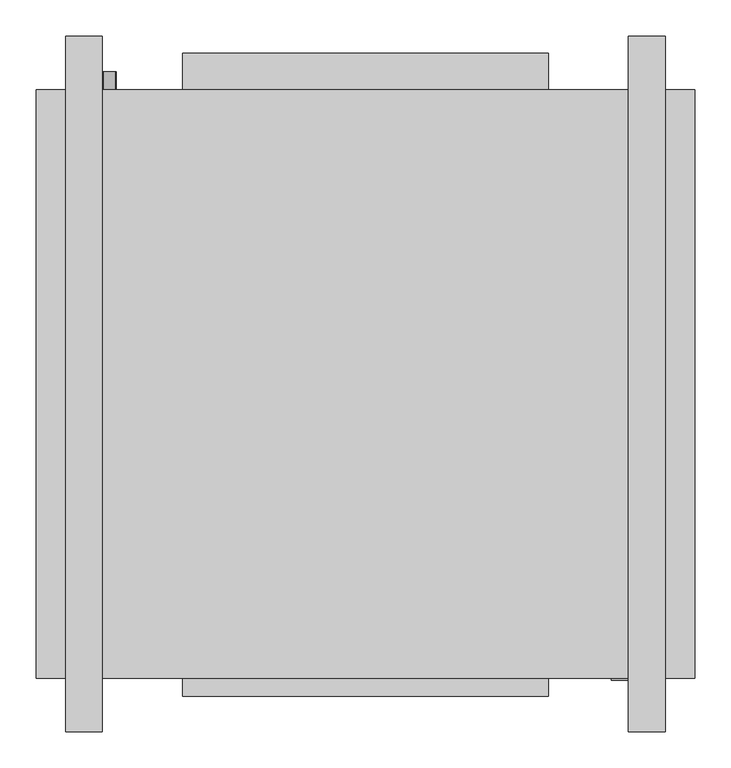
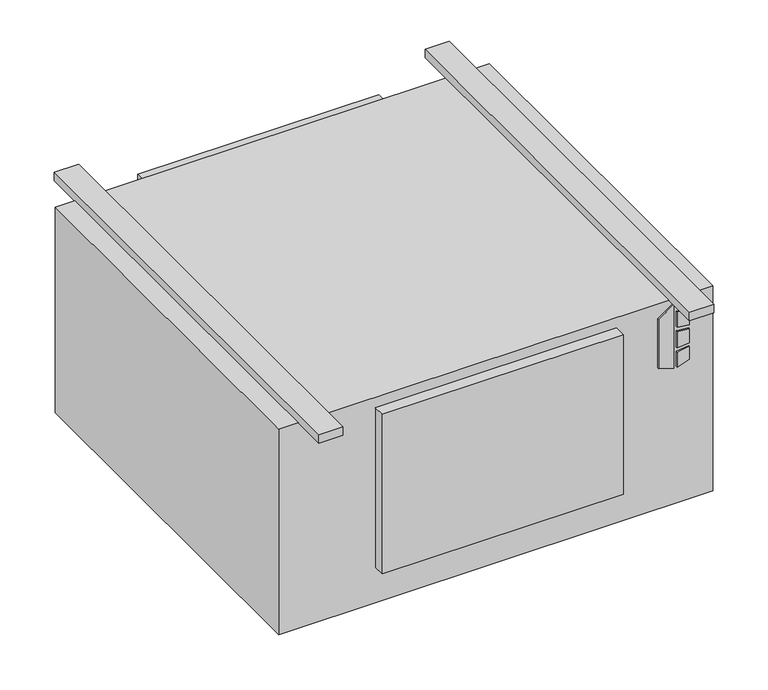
"""IFC4 building model written with IfcOpenShell, lengths in millimetres: proxy geometry, Concealed_High_Capacity_Horizontal_Cabinet_Fan_Coil_Unit_-_HXY_-_IEC_-_2-Pipe_Cool-EHeat_LH_2022 : Size 08 - 277v/60Hz/1Ph - 6 Row 6.0kW."""

import ifcopenshell
import ifcopenshell.guid

model = None  # the IFC model being written
_history = None  # IfcOwnerHistory: only IFC2X3 demands one
_inside = {}  # id of a spatial element -> (the spatial element, [elements in it])
_under = {}  # id of a project, library or spatial element -> (it, [spatial elements below it])
_declared = {}  # id of a project -> (the project, [libraries it declares])
_typed = {}  # id of a type object -> (the type object, [elements of that type])
_made_of = {}  # id of a material, layer set ... -> (it, [elements and type objects made of it])


def new_model(schema):
    """Start an empty IFC model of exactly this schema.

    Asked for "IFC4X3", IfcOpenShell would pick the latest addendum, in which some entities
    have other attributes; the version numbers below select the first issue.
    IFC2X3 requires an IfcOwnerHistory on every rooted entity: one is made here for all.
    """
    global model, _history
    if schema == "IFC4X3":
        model = ifcopenshell.file(schema_version=(4, 3, 0, 0))
    else:
        model = ifcopenshell.file(schema=schema)
    _inside.clear()
    _under.clear()
    _declared.clear()
    _typed.clear()
    _made_of.clear()
    _history = None
    if model.schema == "IFC2X3":
        org = make("IfcOrganization", Name="unknown")
        user = make(
            "IfcPersonAndOrganization",
            ThePerson=make("IfcPerson", FamilyName="unknown"),
            TheOrganization=org,
        )
        app = make(
            "IfcApplication",
            ApplicationDeveloper=org,
            Version="unknown",
            ApplicationFullName="unknown",
            ApplicationIdentifier="unknown",
        )
        _history = make(
            "IfcOwnerHistory",
            OwningUser=user,
            OwningApplication=app,
            ChangeAction="ADDED",
            CreationDate=0,
        )
    return model


def make(cls, **values):
    """One entity of the class cls with the attributes given. An attribute that is None is left unset."""
    return model.create_entity(
        cls, **{name: value for name, value in values.items() if value is not None}
    )


def rooted(cls, **values):
    """An entity with a GlobalId (a new one), such as an element, a storey or a relation."""
    return make(cls, GlobalId=ifcopenshell.guid.new(), OwnerHistory=_history, **values)


def si_unit(unit_type, name, prefix=None):
    """IfcSIUnit, for example si_unit("LENGTHUNIT", "METRE", prefix="MILLI")."""
    return make("IfcSIUnit", UnitType=unit_type, Prefix=prefix, Name=name)


def assignment(units):
    """IfcUnitAssignment: the units of a project."""
    return None if units is None else make("IfcUnitAssignment", Units=units)


def point(xyz):
    """IfcCartesianPoint."""
    return None if xyz is None else make("IfcCartesianPoint", Coordinates=xyz)


def direction(xyz):
    """IfcDirection."""
    return None if xyz is None else make("IfcDirection", DirectionRatios=xyz)


def frame(location, z_axis=None, x_axis=None):
    """IfcAxis2Placement3D, a coordinate frame: its origin and axes. An axis left out is left unset."""
    return make(
        "IfcAxis2Placement3D",
        Location=point(location),
        Axis=direction(z_axis),
        RefDirection=direction(x_axis),
    )


def frame_2d(location, x_axis=None):
    """IfcAxis2Placement2D, a coordinate frame in the plane: its origin and x axis."""
    return make(
        "IfcAxis2Placement2D", Location=point(location), RefDirection=direction(x_axis)
    )


def origin():
    """The frame at (0, 0, 0) with its axes left unset."""
    return frame((0.0, 0.0, 0.0))


def origin_with_axes():
    """The frame at (0, 0, 0) with the z axis (0, 0, 1) and the x axis (1, 0, 0) written out."""
    return frame((0.0, 0.0, 0.0), z_axis=(0.0, 0.0, 1.0), x_axis=(1.0, 0.0, 0.0))


def place(relative_to, where):
    """IfcLocalPlacement: puts the frame where relative to a parent placement (None: the world)."""
    return make(
        "IfcLocalPlacement", PlacementRelTo=relative_to, RelativePlacement=where
    )


def context(
    kind, dimensions, precision=None, world=None, true_north=None, identifier=None
):
    """IfcGeometricRepresentationContext, for example the 3D "Model" context."""
    return make(
        "IfcGeometricRepresentationContext",
        ContextIdentifier=identifier,
        ContextType=kind,
        CoordinateSpaceDimension=dimensions,
        Precision=precision,
        WorldCoordinateSystem=world,
        TrueNorth=true_north,
    )


def project(units=None, contexts=None):
    """IfcProject with its units and contexts."""
    return rooted(
        "IfcProject",
        Name="project",
        RepresentationContexts=contexts,
        UnitsInContext=assignment(units),
    )


def spatial(cls, under=None, at=None, **own):
    """A site, building, storey or space (cls), placed at a placement, below another one or the project."""
    s = rooted(cls, ObjectPlacement=at, **own)
    if under is not None:
        _under.setdefault(under.id(), (under, []))[1].append(s)
    return s


def polyline(points):
    """IfcPolyline through the points."""
    return make("IfcPolyline", Points=[point(p) for p in points])


def circle_curve(where, radius):
    """IfcCircle in the frame where."""
    return make("IfcCircle", Position=where, Radius=radius)


def trimmed(basis, trim1, trim2, sense, master):
    """IfcTrimmedCurve: the piece of a basis curve between two trims."""
    return make(
        "IfcTrimmedCurve",
        BasisCurve=basis,
        Trim1=trim1,
        Trim2=trim2,
        SenseAgreement=sense,
        MasterRepresentation=master,
    )


def segment(curve, same_sense, transition):
    """IfcCompositeCurveSegment."""
    return make(
        "IfcCompositeCurveSegment",
        Transition=transition,
        SameSense=same_sense,
        ParentCurve=curve,
    )


def composite_curve(segments, self_intersect=None):
    """IfcCompositeCurve: segments joined end to end."""
    return make("IfcCompositeCurve", Segments=segments, SelfIntersect=self_intersect)


def outline(outer, holes=None, kind="AREA"):
    """IfcArbitraryClosedProfileDef: a profile drawn as a closed curve; with holes, ...WithVoids."""
    if holes is None:
        return make("IfcArbitraryClosedProfileDef", ProfileType=kind, OuterCurve=outer)
    return make(
        "IfcArbitraryProfileDefWithVoids",
        ProfileType=kind,
        OuterCurve=outer,
        InnerCurves=holes,
    )


def extrude(swept, where, along, depth):
    """IfcExtrudedAreaSolid: the profile swept, set in the frame where, extruded along a direction by depth."""
    return make(
        "IfcExtrudedAreaSolid",
        SweptArea=swept,
        Position=where,
        ExtrudedDirection=direction(along),
        Depth=depth,
    )


def shape(context_of_items, identifier, shape_type, items):
    """IfcShapeRepresentation: the items that make up one representation, for example the "Body"."""
    return make(
        "IfcShapeRepresentation",
        ContextOfItems=context_of_items,
        RepresentationIdentifier=identifier,
        RepresentationType=shape_type,
        Items=items,
    )


def source(mapping_origin, context_of_items, identifier, shape_type, items):
    """IfcRepresentationMap: a shape defined once, which mapped items show again and again."""
    return make(
        "IfcRepresentationMap",
        MappingOrigin=mapping_origin,
        MappedRepresentation=shape(context_of_items, identifier, shape_type, items),
    )


def transform(
    local_origin,
    x_axis=None,
    y_axis=None,
    z_axis=None,
    scale=None,
    scale2=None,
    scale3=None,
    uniform=True,
):
    """IfcCartesianTransformationOperator3D, or its non-uniform kind. x_axis, y_axis, z_axis: its Axis1, 2, 3."""
    if uniform:
        return make(
            "IfcCartesianTransformationOperator3D",
            Axis1=direction(x_axis),
            Axis2=direction(y_axis),
            LocalOrigin=point(local_origin),
            Scale=scale,
            Axis3=direction(z_axis),
        )
    return make(
        "IfcCartesianTransformationOperator3DnonUniform",
        Axis1=direction(x_axis),
        Axis2=direction(y_axis),
        LocalOrigin=point(local_origin),
        Scale=scale,
        Axis3=direction(z_axis),
        Scale2=scale2,
        Scale3=scale3,
    )


def mapped(mapping_source, mapping_target):
    """IfcMappedItem: shows the shape of a source again, moved by a transform."""
    return make(
        "IfcMappedItem", MappingSource=mapping_source, MappingTarget=mapping_target
    )


def made_of(thing, what):
    """Note that an element or type object is made of a material, layer set ...; save() writes the relation."""
    if what is not None:
        _made_of.setdefault(what.id(), (what, []))[1].append(thing)
    return thing


def element(
    cls,
    number,
    at=None,
    inside=None,
    cuts=None,
    type_object=None,
    material=None,
    context=None,
    identifier="Body",
    shape_type=None,
    held_by="IfcProductDefinitionShape",
    body=None,
    shapes=None,
    **own,
):
    """One element of the class cls, such as IfcWall. Its Tag is "e" and its number.

    at: its placement. inside: the storey or other place that contains it. cuts: it is an
    opening in that element (IfcRelVoidsElement). A single representation is given by context,
    identifier, shape_type and body (its items); several are given by shapes. held_by: the class
    of the entity that holds the representations. save() writes the other relations.
    """
    e = rooted(cls, Tag="e%d" % number, ObjectPlacement=at, **own)
    if body is not None:
        shapes = [shape(context, identifier, shape_type, body)]
    if shapes is not None:
        e.Representation = make(held_by, Representations=shapes)
    if inside is not None:
        _inside.setdefault(inside.id(), (inside, []))[1].append(e)
    if cuts is not None:
        rooted(
            "IfcRelVoidsElement", RelatingBuildingElement=cuts, RelatedOpeningElement=e
        )
    if type_object is not None:
        _typed.setdefault(type_object.id(), (type_object, []))[1].append(e)
    return made_of(e, material)


def aggregate(whole, parts):
    """IfcRelAggregates: a whole, such as a stair, and the parts it consists of."""
    return rooted("IfcRelAggregates", RelatingObject=whole, RelatedObjects=parts)


def save(model, path):
    """Write the relations noted so far, then the file.

    IfcRelAggregates (storeys below a building ...), IfcRelContainedInSpatialStructure (elements
    in a storey), IfcRelDefinesByType, IfcRelAssociatesMaterial and IfcRelDeclares: one each for
    every whole, place, type object, material and project.
    """
    for whole, parts in _under.values():
        aggregate(whole, parts)
    for where, things in _inside.values():
        rooted(
            "IfcRelContainedInSpatialStructure",
            RelatedElements=things,
            RelatingStructure=where,
        )
    for kind, things in _typed.values():
        rooted("IfcRelDefinesByType", RelatedObjects=things, RelatingType=kind)
    for what, things in _made_of.values():
        rooted("IfcRelAssociatesMaterial", RelatedObjects=things, RelatingMaterial=what)
    for by, libraries in _declared.values():
        rooted("IfcRelDeclares", RelatingContext=by, RelatedDefinitions=libraries)
    model.write(path)


def mechanical_equipment_621a45fb(model_context):
    return source(origin(), model_context, "Body", "SweptSolid", [
        extrude(outline(polyline([(-142.4519297, 493.7868862), (-152.4, 525.9602728), (-10.2290756, 525.9602728), (-33.2510817, 493.7868862), (-142.4519297, 493.7868862)])), frame((0.0, -649.2875, 0.0), z_axis=(0.0, 1.0, 0.0), x_axis=(0.0, 0.0, 1.0)), (0.0, 0.0, 1.0), 3.175),
        extrude(outline(polyline([(-63.4526443, 532.7186058), (-66.6550368, 558.8), (-37.4261958, 558.8), (-29.3617807, 532.7186058), (-63.4526443, 532.7186058)])), frame((0.0, -649.2875, 0.0), z_axis=(0.0, 1.0, 0.0), x_axis=(0.0, 0.0, 1.0)), (0.0, 0.0, 1.0), 3.175),
        extrude(outline(polyline([(-115.3161712, 558.8), (-118.9816721, 532.7186058), (-152.4, 532.7186058), (-143.7657628, 558.8), (-115.3161712, 558.8)])), frame((0.0, -649.2875, 0.0), z_axis=(0.0, 1.0, 0.0), x_axis=(0.0, 0.0, 1.0)), (0.0, 0.0, 1.0), 3.175),
        extrude(outline(polyline([(-76.0010097, 558.8), (-73.7191834, 532.7186058), (-109.6567319, 532.7186058), (-106.9154669, 558.8), (-76.0010097, 558.8)])), frame((0.0, -649.2875, 0.0), z_axis=(0.0, 1.0, 0.0), x_axis=(0.0, 0.0, 1.0)), (0.0, 0.0, 1.0), 3.175),
        extrude(outline(composite_curve([segment(trimmed(circle_curve(frame_2d((-406.4, -203.2)), 9.525), [point((-406.4, -212.725))], [point((-406.4, -193.675))], False, "CARTESIAN"), True, "CONTINUOUS"), segment(trimmed(circle_curve(frame_2d((-406.4, -203.2)), 9.525), [point((-406.4, -193.675))], [point((-406.4, -212.725))], False, "CARTESIAN"), True, "CONTINUOUS")], self_intersect=False)), frame((0.0, 169.8625, 0.0), z_axis=(0.0, 1.0, 0.0), x_axis=(0.0, 0.0, 1.0)), (0.0, 0.0, 1.0), 25.4),
        extrude(outline(composite_curve([segment(trimmed(circle_curve(frame_2d((-330.2, -203.2)), 7.9375), [point((-330.2, -211.1375))], [point((-330.2, -195.2625))], False, "CARTESIAN"), True, "CONTINUOUS"), segment(trimmed(circle_curve(frame_2d((-330.2, -203.2)), 7.9375), [point((-330.2, -195.2625))], [point((-330.2, -211.1375))], False, "CARTESIAN"), True, "CONTINUOUS")], self_intersect=False)), frame((0.0, 169.8625, 0.0), z_axis=(0.0, 1.0, 0.0), x_axis=(0.0, 0.0, 1.0)), (0.0, 0.0, 1.0), 25.4),
        extrude(outline(composite_curve([segment(trimmed(circle_curve(frame_2d((-254.0, -203.2)), 7.9375), [point((-254.0, -211.1375))], [point((-254.0, -195.2625))], False, "CARTESIAN"), True, "CONTINUOUS"), segment(trimmed(circle_curve(frame_2d((-254.0, -203.2)), 7.9375), [point((-254.0, -195.2625))], [point((-254.0, -211.1375))], False, "CARTESIAN"), True, "CONTINUOUS")], self_intersect=False)), frame((0.0, 169.8625, 0.0), z_axis=(0.0, 1.0, 0.0), x_axis=(0.0, 0.0, 1.0)), (0.0, 0.0, 1.0), 25.4),
        extrude(outline(polyline([(609.6, 169.8625), (609.6, -646.1125), (-304.8, -646.1125), (-304.8, 169.8625), (609.6, 169.8625)])), frame((0.0, 0.0, -457.2), z_axis=(0.0, 0.0, 1.0), x_axis=(1.0, 0.0, 0.0)), (0.0, 0.0, 1.0), 457.2),
        extrude(outline(polyline([(-101.6, 220.6625), (406.4, 220.6625), (406.4, 169.8625), (-101.6, 169.8625), (-101.6, 220.6625)])), frame((0.0, 0.0, -377.825), z_axis=(0.0, 0.0, 1.0), x_axis=(1.0, 0.0, 0.0)), (0.0, 0.0, 1.0), 349.25),
        extrude(outline(polyline([(-212.725, 244.475), (-212.725, -720.725), (-263.525, -720.725), (-263.525, 244.475), (-212.725, 244.475)])), origin_with_axes(), (0.0, 0.0, 1.0), 19.05),
        extrude(outline(polyline([(568.325, 244.475), (568.325, -720.725), (517.525, -720.725), (517.525, 244.475), (568.325, 244.475)])), origin_with_axes(), (0.0, 0.0, 1.0), 19.05),
        extrude(outline(polyline([(406.4, -671.5125), (-101.6, -671.5125), (-101.6, -646.1125), (406.4, -646.1125), (406.4, -671.5125)])), frame((0.0, 0.0, -377.825), z_axis=(0.0, 0.0, 1.0), x_axis=(1.0, 0.0, 0.0)), (0.0, 0.0, 1.0), 355.6),
    ])


if __name__ == "__main__":
    model = new_model("IFC4")
    model_context = context("Model", 3, world=origin())
    ifc_project = project(units=[si_unit("LENGTHUNIT", "METRE", prefix="MILLI")], contexts=[model_context])
    site = spatial("IfcSite", under=ifc_project)
    building = spatial("IfcBuilding", under=site)
    placement = place(None, origin())
    mechanical_equipment_shape = mechanical_equipment_621a45fb(model_context)
    element("IfcBuildingElementProxy", 1, Name="Concealed_High_Capacity_Horizontal_Cabinet_Fan_Coil_Unit_-_HXY_-_IEC_-_2-Pipe_Cool-EHeat_LH_2022 : Size 08 - 277v/60Hz/1Ph - 6 Row 6.0kW", ObjectType="Concealed_High_Capacity_Horizontal_Cabinet_Fan_Coil_Unit_-_HXY_-_IEC_-_2-Pipe_Cool-EHeat_LH_2022 : Size 08 - 277v/60Hz/1Ph - 6 Row 6.0kW", at=placement, inside=building, context=model_context, shape_type="MappedRepresentation", body=[
        mapped(mechanical_equipment_shape, transform((0.0, 0.0, 0.0), x_axis=(1.0, 0.0, 0.0), y_axis=(0.0, 1.0, 0.0), z_axis=(0.0, 0.0, 1.0))),
    ])
    save(model, "model.ifc")
